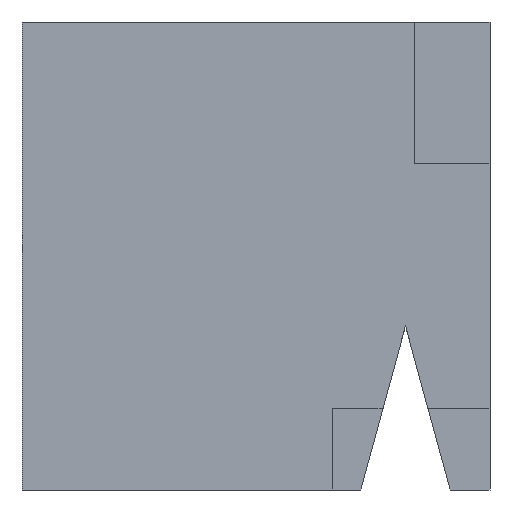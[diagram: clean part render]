
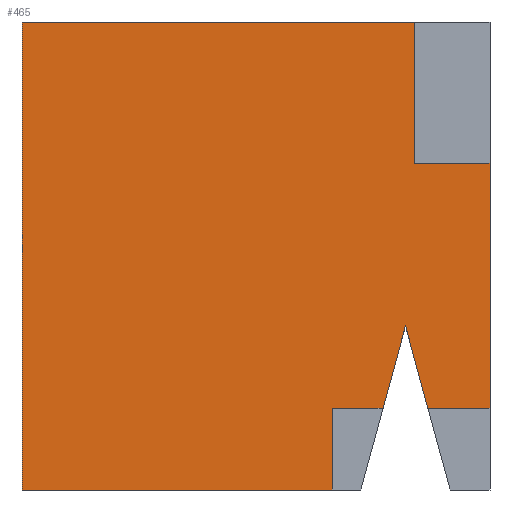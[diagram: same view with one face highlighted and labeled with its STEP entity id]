
A CAD part, left-side view. The second image highlights one B-rep face of the part: STEP entity #465.
In plain terms, the highlighted planar face has unit normal (-1, 0, 0).
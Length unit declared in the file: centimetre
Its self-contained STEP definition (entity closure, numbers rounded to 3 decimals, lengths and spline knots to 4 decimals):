
#1 = CARTESIAN_POINT ( 'NONE',  ( 0., 337.2821, 174.6088 ) ) ;
#10 = VECTOR ( 'NONE', #159, 100. ) ;
#15 = LINE ( 'NONE', #661, #686 ) ;
#26 = CARTESIAN_POINT ( 'NONE',  ( 0., 228.472, 174.6088 ) ) ;
#34 = EDGE_CURVE ( 'NONE', #493, #638, #214, .T. ) ;
#47 = EDGE_CURVE ( 'NONE', #744, #496, #15, .T. ) ;
#71 = DIRECTION ( 'NONE',  ( 0., 0.263, 0.965 ) ) ;
#83 = LINE ( 'NONE', #407, #398 ) ;
#100 = EDGE_CURVE ( 'NONE', #378, #590, #520, .T. ) ;
#112 = ORIENTED_EDGE ( 'NONE', *, *, #470, .F. ) ;
#126 = DIRECTION ( 'NONE',  ( 0., 0., -1. ) ) ;
#132 = FACE_OUTER_BOUND ( 'NONE', #320, .T. ) ;
#136 = VECTOR ( 'NONE', #645, 100. ) ;
#149 = VECTOR ( 'NONE', #795, 100. ) ;
#154 = VERTEX_POINT ( 'NONE', #573 ) ;
#159 = DIRECTION ( 'NONE',  ( 0., -1., 0. ) ) ;
#162 = CARTESIAN_POINT ( 'NONE',  ( 0., 0., 698.07 ) ) ;
#197 = EDGE_CURVE ( 'NONE', #557, #694, #198, .T. ) ;
#198 = LINE ( 'NONE', #459, #288 ) ;
#206 = VECTOR ( 'NONE', #420, 100. ) ;
#208 = DIRECTION ( 'NONE',  ( 0., 0.263, -0.965 ) ) ;
#210 = ORIENTED_EDGE ( 'NONE', *, *, #100, .F. ) ;
#213 = EDGE_CURVE ( 'NONE', #697, #744, #83, .T. ) ;
#214 = LINE ( 'NONE', #346, #149 ) ;
#222 = CARTESIAN_POINT ( 'NONE',  ( 0., 132.6775, 174.6088 ) ) ;
#225 = CARTESIAN_POINT ( 'NONE',  ( 0., 0., 174.6088 ) ) ;
#239 = ORIENTED_EDGE ( 'NONE', *, *, #815, .F. ) ;
#249 = CARTESIAN_POINT ( 'NONE',  ( 0., 0., 1000. ) ) ;
#267 = DIRECTION ( 'NONE',  ( 1., 0., 0. ) ) ;
#275 = ORIENTED_EDGE ( 'NONE', *, *, #785, .F. ) ;
#277 = CARTESIAN_POINT ( 'NONE',  ( 0., 0., 174.6088 ) ) ;
#288 = VECTOR ( 'NONE', #208, 100. ) ;
#302 = ORIENTED_EDGE ( 'NONE', *, *, #519, .F. ) ;
#307 = ORIENTED_EDGE ( 'NONE', *, *, #47, .T. ) ;
#310 = DIRECTION ( 'NONE',  ( 0., 0., -1. ) ) ;
#319 = CARTESIAN_POINT ( 'NONE',  ( 0., 85.1477, 0. ) ) ;
#320 = EDGE_LOOP ( 'NONE', ( #210, #275, #624, #112, #505, #307, #354, #757, #427, #302, #239 ) ) ;
#336 = CARTESIAN_POINT ( 'NONE',  ( 0., 160.4317, 1000. ) ) ;
#346 = CARTESIAN_POINT ( 'NONE',  ( 0., 160.4317, 698.07 ) ) ;
#354 = ORIENTED_EDGE ( 'NONE', *, *, #400, .F. ) ;
#356 = DIRECTION ( 'NONE',  ( 0., 1., 0. ) ) ;
#378 = VERTEX_POINT ( 'NONE', #652 ) ;
#398 = VECTOR ( 'NONE', #474, 100. ) ;
#399 = PLANE ( 'NONE',  #662 ) ;
#400 = EDGE_CURVE ( 'NONE', #154, #496, #456, .T. ) ;
#407 = CARTESIAN_POINT ( 'NONE',  ( 0., 1000., 1000. ) ) ;
#415 = LINE ( 'NONE', #277, #436 ) ;
#420 = DIRECTION ( 'NONE',  ( 0., 1., 0. ) ) ;
#427 = ORIENTED_EDGE ( 'NONE', *, *, #197, .F. ) ;
#436 = VECTOR ( 'NONE', #356, 100. ) ;
#447 = CARTESIAN_POINT ( 'NONE',  ( 0., 1000., 1000. ) ) ;
#456 = LINE ( 'NONE', #1, #704 ) ;
#457 = LINE ( 'NONE', #319, #851 ) ;
#459 = CARTESIAN_POINT ( 'NONE',  ( 0., 180.5748, 350.5672 ) ) ;
#465 = ADVANCED_FACE ( 'NONE', ( #132 ), #399, .F. ) ;
#470 = EDGE_CURVE ( 'NONE', #697, #493, #592, .T. ) ;
#473 = CARTESIAN_POINT ( 'NONE',  ( 0., 1000., 1000. ) ) ;
#474 = DIRECTION ( 'NONE',  ( 0., 0., -1. ) ) ;
#490 = LINE ( 'NONE', #162, #10 ) ;
#493 = VERTEX_POINT ( 'NONE', #336 ) ;
#496 = VERTEX_POINT ( 'NONE', #722 ) ;
#505 = ORIENTED_EDGE ( 'NONE', *, *, #213, .T. ) ;
#519 = EDGE_CURVE ( 'NONE', #598, #557, #457, .T. ) ;
#520 = LINE ( 'NONE', #249, #823 ) ;
#521 = DIRECTION ( 'NONE',  ( 0., 0., -1. ) ) ;
#525 = DIRECTION ( 'NONE',  ( 0., -1., 0. ) ) ;
#544 = CARTESIAN_POINT ( 'NONE',  ( 0., 0., 174.6088 ) ) ;
#547 = LINE ( 'NONE', #225, #206 ) ;
#557 = VERTEX_POINT ( 'NONE', #708 ) ;
#573 = CARTESIAN_POINT ( 'NONE',  ( 0., 337.2821, 174.6088 ) ) ;
#590 = VERTEX_POINT ( 'NONE', #544 ) ;
#592 = LINE ( 'NONE', #447, #136 ) ;
#598 = VERTEX_POINT ( 'NONE', #222 ) ;
#601 = CARTESIAN_POINT ( 'NONE',  ( 0., 160.4317, 698.07 ) ) ;
#621 = CARTESIAN_POINT ( 'NONE',  ( 0., 1000., 0. ) ) ;
#624 = ORIENTED_EDGE ( 'NONE', *, *, #34, .F. ) ;
#638 = VERTEX_POINT ( 'NONE', #601 ) ;
#645 = DIRECTION ( 'NONE',  ( 0., -1., 0. ) ) ;
#652 = CARTESIAN_POINT ( 'NONE',  ( 0., 0., 698.07 ) ) ;
#661 = CARTESIAN_POINT ( 'NONE',  ( 0., 1000., 0. ) ) ;
#662 = AXIS2_PLACEMENT_3D ( 'NONE', #663, #267, #126 ) ;
#663 = CARTESIAN_POINT ( 'NONE',  ( 0., 1000., 1000. ) ) ;
#672 = EDGE_CURVE ( 'NONE', #694, #154, #415, .T. ) ;
#686 = VECTOR ( 'NONE', #525, 100. ) ;
#694 = VERTEX_POINT ( 'NONE', #26 ) ;
#697 = VERTEX_POINT ( 'NONE', #473 ) ;
#704 = VECTOR ( 'NONE', #521, 100. ) ;
#708 = CARTESIAN_POINT ( 'NONE',  ( 0., 180.5748, 350.5672 ) ) ;
#722 = CARTESIAN_POINT ( 'NONE',  ( 0., 337.2821, 0. ) ) ;
#744 = VERTEX_POINT ( 'NONE', #621 ) ;
#757 = ORIENTED_EDGE ( 'NONE', *, *, #672, .F. ) ;
#785 = EDGE_CURVE ( 'NONE', #638, #378, #490, .T. ) ;
#795 = DIRECTION ( 'NONE',  ( 0., 0., -1. ) ) ;
#815 = EDGE_CURVE ( 'NONE', #590, #598, #547, .T. ) ;
#823 = VECTOR ( 'NONE', #310, 100. ) ;
#851 = VECTOR ( 'NONE', #71, 100. ) ;
